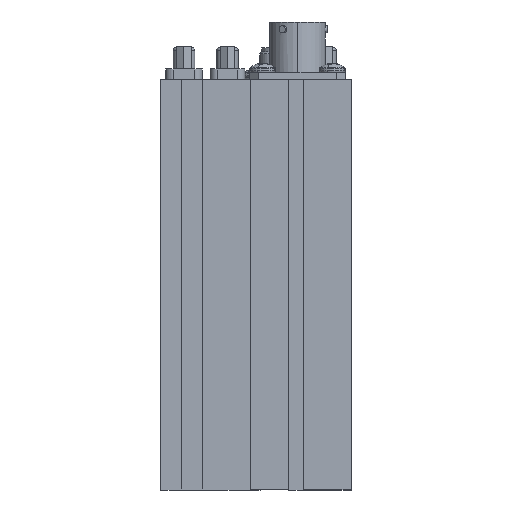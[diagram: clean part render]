
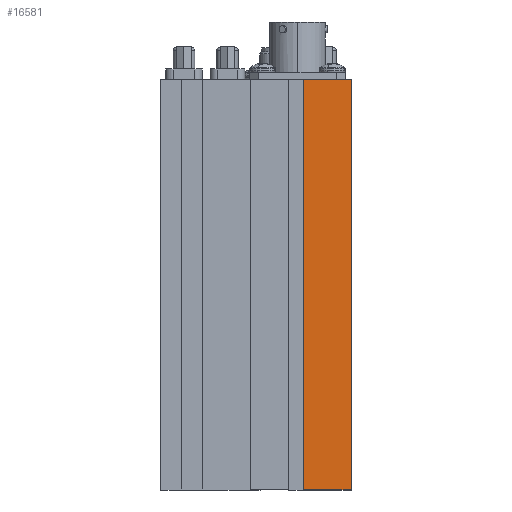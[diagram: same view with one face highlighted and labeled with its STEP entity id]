
A CAD part, left-side view. The second image highlights one B-rep face of the part: STEP entity #16581.
In plain terms, the highlighted planar face has unit normal (-1, 0, 0).
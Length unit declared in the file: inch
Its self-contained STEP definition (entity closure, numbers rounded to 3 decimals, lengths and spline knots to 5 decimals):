
#1675 = CARTESIAN_POINT ( 'NONE',  ( -1.25, 0.408, -3.5 ) ) ;
#3202 = VERTEX_POINT ( 'NONE', #51700 ) ;
#5131 = CARTESIAN_POINT ( 'NONE',  ( -1.25, 0.408, -3.5 ) ) ;
#6062 = EDGE_CURVE ( 'NONE', #40860, #3202, #26693, .T. ) ;
#7296 = DIRECTION ( 'NONE',  ( 1., 0., 0. ) ) ;
#7377 = EDGE_CURVE ( 'NONE', #22684, #40860, #27270, .T. ) ;
#7533 = CARTESIAN_POINT ( 'NONE',  ( -1.25, 0., 0. ) ) ;
#7950 = ORIENTED_EDGE ( 'NONE', *, *, #7377, .F. ) ;
#9623 = CARTESIAN_POINT ( 'NONE',  ( -1.25, 0.408, 0. ) ) ;
#11325 = VERTEX_POINT ( 'NONE', #37240 ) ;
#12672 = VECTOR ( 'NONE', #61130, 39.37008 ) ;
#13866 = ORIENTED_EDGE ( 'NONE', *, *, #32602, .T. ) ;
#16581 = ADVANCED_FACE ( 'NONE', ( #59535 ), #59008, .F. ) ;
#22684 = VERTEX_POINT ( 'NONE', #1675 ) ;
#23506 = EDGE_CURVE ( 'NONE', #11325, #3202, #39061, .T. ) ;
#26693 = LINE ( 'NONE', #46918, #12672 ) ;
#27110 = LINE ( 'NONE', #5131, #28595 ) ;
#27270 = LINE ( 'NONE', #46440, #50872 ) ;
#28595 = VECTOR ( 'NONE', #33359, 39.37008 ) ;
#31099 = EDGE_LOOP ( 'NONE', ( #45789, #35221, #7950, #13866 ) ) ;
#32602 = EDGE_CURVE ( 'NONE', #22684, #11325, #27110, .T. ) ;
#33359 = DIRECTION ( 'NONE',  ( 0., -1., 0. ) ) ;
#35221 = ORIENTED_EDGE ( 'NONE', *, *, #6062, .F. ) ;
#35547 = CARTESIAN_POINT ( 'NONE',  ( -1.25, 0.408, 0. ) ) ;
#37240 = CARTESIAN_POINT ( 'NONE',  ( -1.25, 0., -3.5 ) ) ;
#39061 = LINE ( 'NONE', #7533, #51589 ) ;
#39949 = AXIS2_PLACEMENT_3D ( 'NONE', #35547, #7296, #40283 ) ;
#40283 = DIRECTION ( 'NONE',  ( 0., 0., -1. ) ) ;
#40532 = DIRECTION ( 'NONE',  ( 0., 0., 1. ) ) ;
#40860 = VERTEX_POINT ( 'NONE', #9623 ) ;
#41722 = DIRECTION ( 'NONE',  ( 0., 0., 1. ) ) ;
#45789 = ORIENTED_EDGE ( 'NONE', *, *, #23506, .T. ) ;
#46440 = CARTESIAN_POINT ( 'NONE',  ( -1.25, 0.408, 0. ) ) ;
#46918 = CARTESIAN_POINT ( 'NONE',  ( -1.25, 0.408, 0. ) ) ;
#50872 = VECTOR ( 'NONE', #41722, 39.37008 ) ;
#51589 = VECTOR ( 'NONE', #40532, 39.37008 ) ;
#51700 = CARTESIAN_POINT ( 'NONE',  ( -1.25, 0., 0. ) ) ;
#59008 = PLANE ( 'NONE',  #39949 ) ;
#59535 = FACE_OUTER_BOUND ( 'NONE', #31099, .T. ) ;
#61130 = DIRECTION ( 'NONE',  ( 0., -1., 0. ) ) ;
